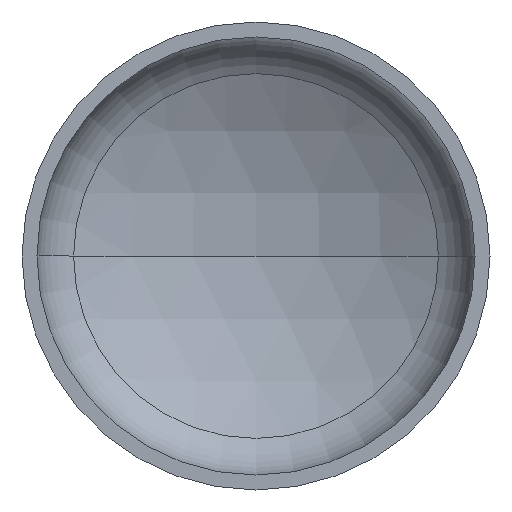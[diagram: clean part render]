
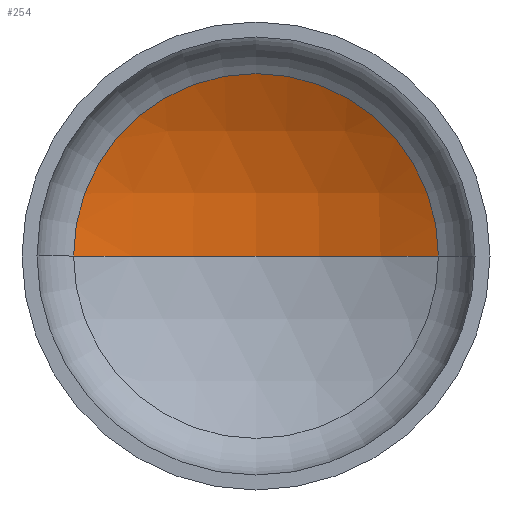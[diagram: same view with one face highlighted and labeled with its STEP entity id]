
A CAD part, front view. The second image highlights one B-rep face of the part: STEP entity #254.
In plain terms, the highlighted spherical face has radius 325 mm.
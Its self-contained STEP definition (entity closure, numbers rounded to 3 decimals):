
#4 = VERTEX_POINT ( 'NONE', #351 ) ;
#10 = ORIENTED_EDGE ( 'NONE', *, *, #99, .F. ) ;
#12 = AXIS2_PLACEMENT_3D ( 'NONE', #47, #45, #41 ) ;
#19 = ORIENTED_EDGE ( 'NONE', *, *, #96, .T. ) ;
#30 = DIRECTION ( 'NONE',  ( -1., 0., 0. ) ) ;
#36 = AXIS2_PLACEMENT_3D ( 'NONE', #58, #277, #225 ) ;
#38 = AXIS2_PLACEMENT_3D ( 'NONE', #397, #131, #30 ) ;
#39 = CARTESIAN_POINT ( 'NONE',  ( 0., 135.362, 0. ) ) ;
#40 = AXIS2_PLACEMENT_3D ( 'NONE', #181, #303, #141 ) ;
#41 = DIRECTION ( 'NONE',  ( -1., 0., 0. ) ) ;
#45 = DIRECTION ( 'NONE',  ( 0., 0., -1. ) ) ;
#47 = CARTESIAN_POINT ( 'NONE',  ( 0., -189.638, 0. ) ) ;
#58 = CARTESIAN_POINT ( 'NONE',  ( 0., -189.638, 0. ) ) ;
#96 = EDGE_CURVE ( 'NONE', #4, #399, #187, .T. ) ;
#97 = EDGE_CURVE ( 'NONE', #241, #4, #107, .T. ) ;
#99 = EDGE_CURVE ( 'NONE', #241, #399, #321, .T. ) ;
#107 = CIRCLE ( 'NONE', #38, 325. ) ;
#108 = CARTESIAN_POINT ( 'NONE',  ( -158.422, 94.135, 0. ) ) ;
#131 = DIRECTION ( 'NONE',  ( 0., 0., -1. ) ) ;
#141 = DIRECTION ( 'NONE',  ( 1., 0., 0. ) ) ;
#162 = SPHERICAL_SURFACE ( 'NONE', #12, 325. ) ;
#181 = CARTESIAN_POINT ( 'NONE',  ( 0., 94.135, 0. ) ) ;
#187 = CIRCLE ( 'NONE', #40, 158.422 ) ;
#225 = DIRECTION ( 'NONE',  ( 1., 0., 0. ) ) ;
#241 = VERTEX_POINT ( 'NONE', #39 ) ;
#243 = FACE_OUTER_BOUND ( 'NONE', #301, .T. ) ;
#254 = ADVANCED_FACE ( 'NONE', ( #243 ), #162, .F. ) ;
#277 = DIRECTION ( 'NONE',  ( 0., 0., 1. ) ) ;
#301 = EDGE_LOOP ( 'NONE', ( #10, #368, #19 ) ) ;
#303 = DIRECTION ( 'NONE',  ( 0., -1., 0. ) ) ;
#321 = CIRCLE ( 'NONE', #36, 325. ) ;
#351 = CARTESIAN_POINT ( 'NONE',  ( 158.422, 94.135, 0. ) ) ;
#368 = ORIENTED_EDGE ( 'NONE', *, *, #97, .T. ) ;
#397 = CARTESIAN_POINT ( 'NONE',  ( 0., -189.638, 0. ) ) ;
#399 = VERTEX_POINT ( 'NONE', #108 ) ;
